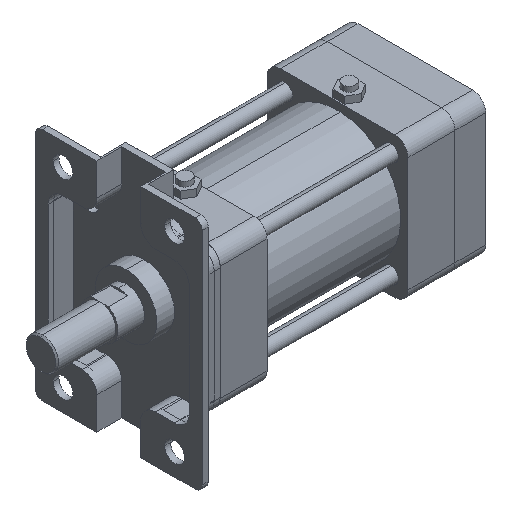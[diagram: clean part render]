
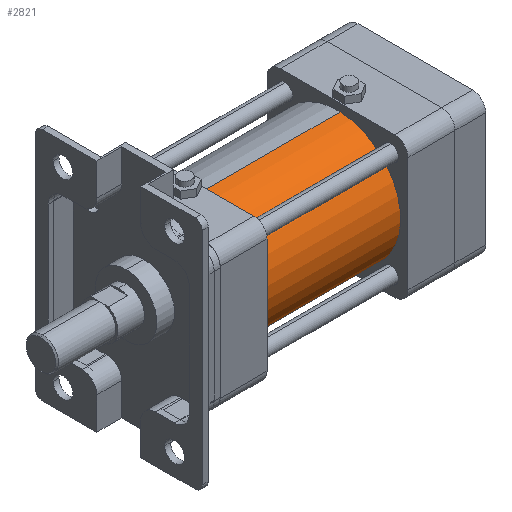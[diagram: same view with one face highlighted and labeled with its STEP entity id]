
A CAD part, isometric view. The second image highlights one B-rep face of the part: STEP entity #2821.
In plain terms, the highlighted cylindrical face has radius 43 mm (diameter 86 mm), a partial arc.
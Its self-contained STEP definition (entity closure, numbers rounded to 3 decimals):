
#88 = ORIENTED_EDGE ( 'NONE', *, *, #10296, .F. ) ;
#170 = EDGE_CURVE ( 'NONE', #7073, #5648, #10476, .T. ) ;
#584 = DIRECTION ( 'NONE',  ( -1., 0., 0. ) ) ;
#669 = VERTEX_POINT ( 'NONE', #6836 ) ;
#928 = EDGE_LOOP ( 'NONE', ( #3591, #1049, #4863, #88 ) ) ;
#1049 = ORIENTED_EDGE ( 'NONE', *, *, #4340, .T. ) ;
#1307 = DIRECTION ( 'NONE',  ( 0., 0., 1. ) ) ;
#1513 = CYLINDRICAL_SURFACE ( 'NONE', #1668, 43. ) ;
#1526 = CARTESIAN_POINT ( 'NONE',  ( 48., 0., 0. ) ) ;
#1579 = VERTEX_POINT ( 'NONE', #1884 ) ;
#1668 = AXIS2_PLACEMENT_3D ( 'NONE', #5527, #584, #2040 ) ;
#1884 = CARTESIAN_POINT ( 'NONE',  ( 48., 0., -43. ) ) ;
#2040 = DIRECTION ( 'NONE',  ( 0., 0., 1. ) ) ;
#2577 = CIRCLE ( 'NONE', #11355, 43. ) ;
#2821 = ADVANCED_FACE ( 'NONE', ( #4099 ), #1513, .T. ) ;
#2935 = DIRECTION ( 'NONE',  ( -1., 0., 0. ) ) ;
#3591 = ORIENTED_EDGE ( 'NONE', *, *, #9268, .F. ) ;
#3861 = CIRCLE ( 'NONE', #5497, 43. ) ;
#4099 = FACE_OUTER_BOUND ( 'NONE', #928, .T. ) ;
#4340 = EDGE_CURVE ( 'NONE', #1579, #7073, #3861, .T. ) ;
#4863 = ORIENTED_EDGE ( 'NONE', *, *, #170, .T. ) ;
#5474 = CARTESIAN_POINT ( 'NONE',  ( 48., 0., 43. ) ) ;
#5497 = AXIS2_PLACEMENT_3D ( 'NONE', #1526, #7826, #5892 ) ;
#5527 = CARTESIAN_POINT ( 'NONE',  ( -29.1, 0., 0. ) ) ;
#5648 = VERTEX_POINT ( 'NONE', #10745 ) ;
#5728 = DIRECTION ( 'NONE',  ( -1., 0., 0. ) ) ;
#5892 = DIRECTION ( 'NONE',  ( 0., 0., 1. ) ) ;
#6836 = CARTESIAN_POINT ( 'NONE',  ( -48., 0., -43. ) ) ;
#7073 = VERTEX_POINT ( 'NONE', #5474 ) ;
#7287 = LINE ( 'NONE', #7804, #10393 ) ;
#7451 = VECTOR ( 'NONE', #5728, 1000. ) ;
#7804 = CARTESIAN_POINT ( 'NONE',  ( -29.1, 0., -43. ) ) ;
#7826 = DIRECTION ( 'NONE',  ( -1., 0., 0. ) ) ;
#8717 = DIRECTION ( 'NONE',  ( -1., 0., 0. ) ) ;
#9268 = EDGE_CURVE ( 'NONE', #1579, #669, #7287, .T. ) ;
#9714 = CARTESIAN_POINT ( 'NONE',  ( -29.1, 0., 43. ) ) ;
#10296 = EDGE_CURVE ( 'NONE', #669, #5648, #2577, .T. ) ;
#10393 = VECTOR ( 'NONE', #2935, 1000. ) ;
#10476 = LINE ( 'NONE', #9714, #7451 ) ;
#10745 = CARTESIAN_POINT ( 'NONE',  ( -48., 0., 43. ) ) ;
#10972 = CARTESIAN_POINT ( 'NONE',  ( -48., 0., 0. ) ) ;
#11355 = AXIS2_PLACEMENT_3D ( 'NONE', #10972, #8717, #1307 ) ;
